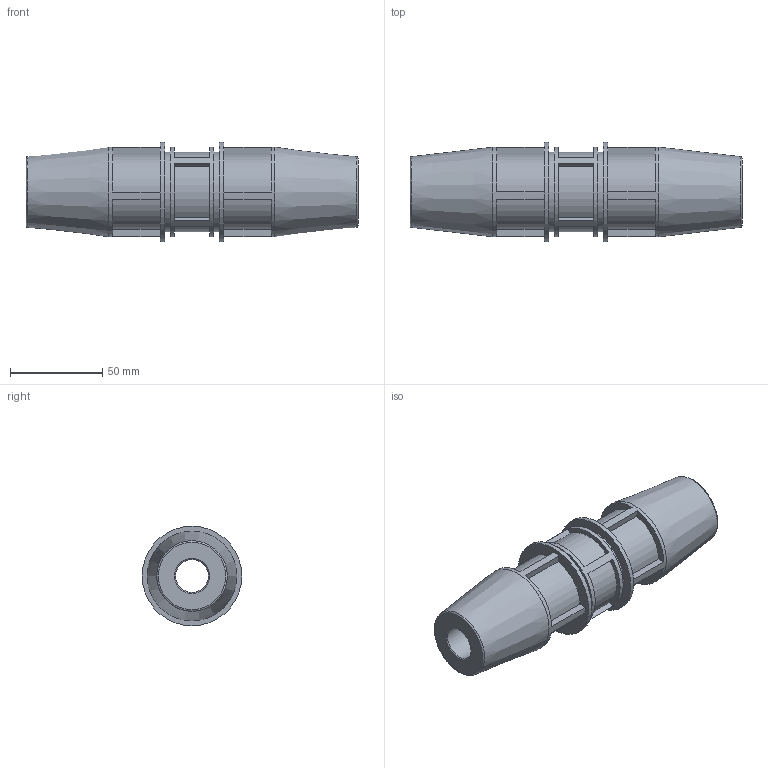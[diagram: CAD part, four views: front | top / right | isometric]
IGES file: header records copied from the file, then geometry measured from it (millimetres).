
Global section: file name: 176100014018_196100014018.ipt; native system: Autodesk Inventor 2019; preprocessor: unknown; author: KIM; date: 20201210.135621; units: millimetre
Bounding box: 180 x 54 x 54 mm (x, y, z)
Volume: 216222.7 mm3; surface area: 45614.4 mm2
Topology: 1 solids, 1 shells, 78 faces, 197 edges, 132 vertices
Faces by surface type: plane 50, cylinder 19, revolution 7, cone 2
Full cylindrical faces by diameter (mm): 43.2 x2, 48.6 x3, 54 x2
